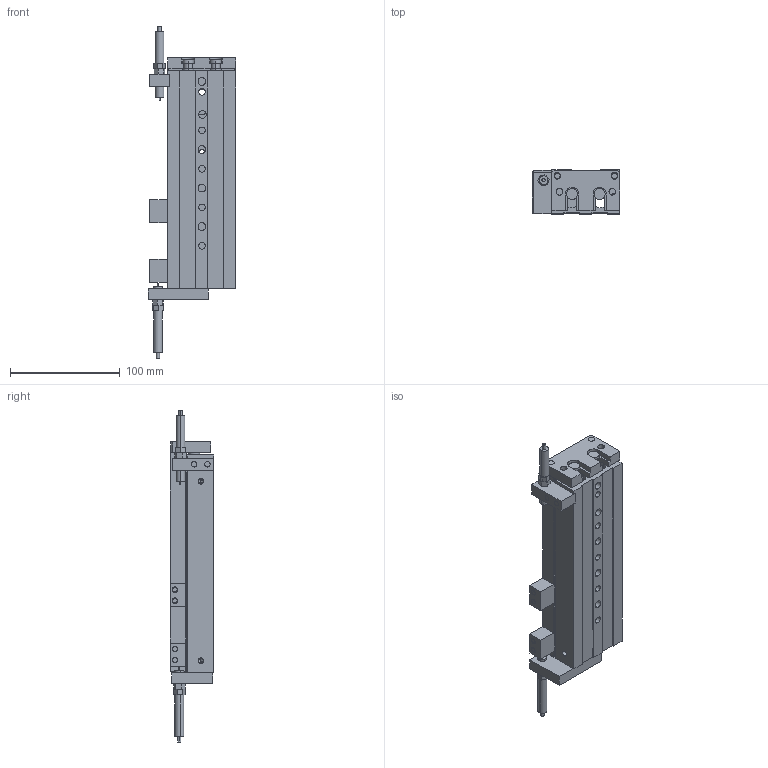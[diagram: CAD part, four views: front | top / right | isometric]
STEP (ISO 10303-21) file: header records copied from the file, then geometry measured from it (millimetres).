
FILE_DESCRIPTION (( 'STEP AP203' ), '1' );
FILE_NAME ('GDX 16-100.STEP', '2013-02-25T14:44:24', ( 'Conseil Régional Haute-Normandie' ), ( 'Conseil Régional Haute-Normandie' ), 'SwSTEP 2.0', 'SolidWorks 2010', '' );
FILE_SCHEMA (( 'CONFIG_CONTROL_DESIGN' ));
Length unit declared in the file: millimetre
Products named in the file (14): Pièce7 GDX16-100_Default; GDX 16-100; Pièce 4 GDX16-10; Pièce1 GDX 16-100_Default; Pièce2 GDX16-100_Default; Pièce6 GDX16-100_Default; Pièce12 GDX16-10_Default; Pièce9 GDX16-10_Default; Pièce8 GDX16-10_Default; Pièce5 GDX16-10_Default; GDX25-10 Pièce14_Default; Pièce11 GDX16-50_Default; Pièce3 GDX16-10_Default; Pièce10 GDX16-10_Default
Assembly tree (30 placements, depth 2):
  GDX 16-100
    Pièce10 GDX16-10_Default  x10
    Pièce1 GDX 16-100_Default
    Pièce11 GDX16-50_Default  x2
    GDX25-10 Pièce14_Default  x2
    Pièce2 GDX16-100_Default  x2
    Pièce12 GDX16-10_Default  x4
    Pièce6 GDX16-100_Default
    Pièce 4 GDX16-10
    Pièce8 GDX16-10_Default
    Pièce3 GDX16-10_Default  x2
    Pièce5 GDX16-10_Default  x2
    Pièce9 GDX16-10_Default
    Pièce7 GDX16-100_Default
Bounding box: 80 x 40 x 301.82 mm (x, y, z)
Volume: 410802.2 mm3; surface area: 163062.4 mm2
Topology: 30 solids, 30 shells, 814 faces, 2054 edges, 1346 vertices
Faces by surface type: plane 415, cylinder 238, bspline 133, cone 28
Entity records: 32800 total; most frequent: CARTESIAN_POINT 14853, ORIENTED_EDGE 3452, DIRECTION 2930, EDGE_CURVE 1726, VERTEX_POINT 1146, VECTOR 1120, LINE 1120, AXIS2_PLACEMENT_3D 905
